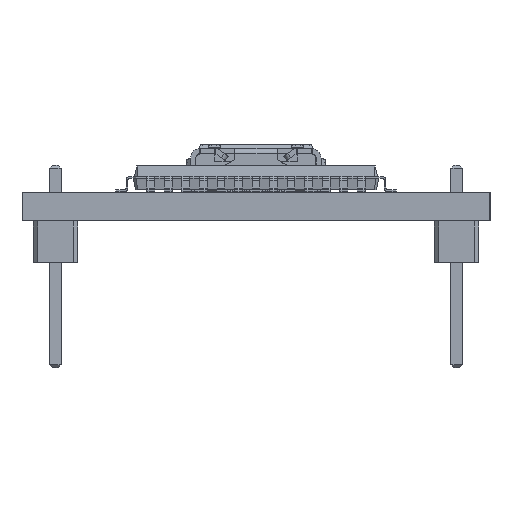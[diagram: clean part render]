
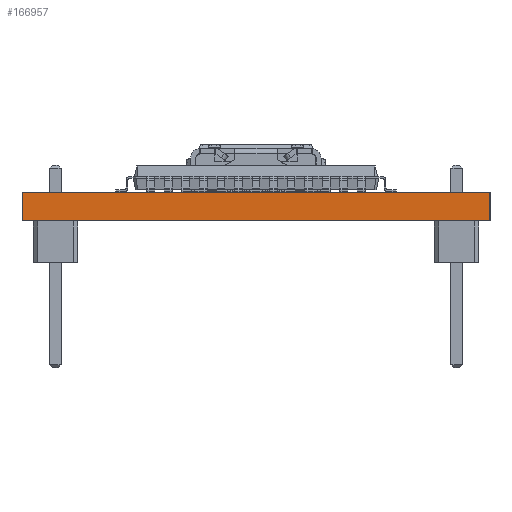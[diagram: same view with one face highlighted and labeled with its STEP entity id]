
A CAD part, left-side view. The second image highlights one B-rep face of the part: STEP entity #166957.
In plain terms, the highlighted planar face has unit normal (-1, 0, 0).
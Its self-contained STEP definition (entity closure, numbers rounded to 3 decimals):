
#166776 = PLANE('',#166777);
#166777 = AXIS2_PLACEMENT_3D('',#166778,#166779,#166780);
#166778 = CARTESIAN_POINT('',(24.765,-13.335,0.));
#166779 = DIRECTION('',(0.,-1.,0.));
#166780 = DIRECTION('',(-1.,0.,0.));
#166801 = VERTEX_POINT('',#166802);
#166802 = CARTESIAN_POINT('',(-24.765,-13.335,1.6));
#166816 = PLANE('',#166817);
#166817 = AXIS2_PLACEMENT_3D('',#166818,#166819,#166820);
#166818 = CARTESIAN_POINT('',(0.,0.,1.6));
#166819 = DIRECTION('',(-0.,-0.,-1.));
#166820 = DIRECTION('',(-1.,0.,0.));
#166828 = EDGE_CURVE('',#166829,#166801,#166831,.T.);
#166829 = VERTEX_POINT('',#166830);
#166830 = CARTESIAN_POINT('',(-24.765,-13.335,0.));
#166831 = SURFACE_CURVE('',#166832,(#166836,#166843),.PCURVE_S1.);
#166832 = LINE('',#166833,#166834);
#166833 = CARTESIAN_POINT('',(-24.765,-13.335,0.));
#166834 = VECTOR('',#166835,1.);
#166835 = DIRECTION('',(0.,0.,1.));
#166836 = PCURVE('',#166776,#166837);
#166837 = DEFINITIONAL_REPRESENTATION('',(#166838),#166842);
#166838 = LINE('',#166839,#166840);
#166839 = CARTESIAN_POINT('',(49.53,0.));
#166840 = VECTOR('',#166841,1.);
#166841 = DIRECTION('',(0.,-1.));
#166842 = ( GEOMETRIC_REPRESENTATION_CONTEXT(2) 
PARAMETRIC_REPRESENTATION_CONTEXT() REPRESENTATION_CONTEXT('2D SPACE',''
  ) );
#166843 = PCURVE('',#166844,#166849);
#166844 = PLANE('',#166845);
#166845 = AXIS2_PLACEMENT_3D('',#166846,#166847,#166848);
#166846 = CARTESIAN_POINT('',(-24.765,-13.335,0.));
#166847 = DIRECTION('',(-1.,0.,0.));
#166848 = DIRECTION('',(0.,1.,0.));
#166849 = DEFINITIONAL_REPRESENTATION('',(#166850),#166854);
#166850 = LINE('',#166851,#166852);
#166851 = CARTESIAN_POINT('',(0.,0.));
#166852 = VECTOR('',#166853,1.);
#166853 = DIRECTION('',(0.,-1.));
#166854 = ( GEOMETRIC_REPRESENTATION_CONTEXT(2) 
PARAMETRIC_REPRESENTATION_CONTEXT() REPRESENTATION_CONTEXT('2D SPACE',''
  ) );
#166870 = PLANE('',#166871);
#166871 = AXIS2_PLACEMENT_3D('',#166872,#166873,#166874);
#166872 = CARTESIAN_POINT('',(0.,0.,0.));
#166873 = DIRECTION('',(-0.,-0.,-1.));
#166874 = DIRECTION('',(-1.,0.,0.));
#166903 = PLANE('',#166904);
#166904 = AXIS2_PLACEMENT_3D('',#166905,#166906,#166907);
#166905 = CARTESIAN_POINT('',(-24.765,13.335,0.));
#166906 = DIRECTION('',(0.,1.,0.));
#166907 = DIRECTION('',(1.,0.,0.));
#166957 = ADVANCED_FACE('',(#166958),#166844,.T.);
#166958 = FACE_BOUND('',#166959,.T.);
#166959 = EDGE_LOOP('',(#166960,#166961,#166984,#167007));
#166960 = ORIENTED_EDGE('',*,*,#166828,.T.);
#166961 = ORIENTED_EDGE('',*,*,#166962,.T.);
#166962 = EDGE_CURVE('',#166801,#166963,#166965,.T.);
#166963 = VERTEX_POINT('',#166964);
#166964 = CARTESIAN_POINT('',(-24.765,13.335,1.6));
#166965 = SURFACE_CURVE('',#166966,(#166970,#166977),.PCURVE_S1.);
#166966 = LINE('',#166967,#166968);
#166967 = CARTESIAN_POINT('',(-24.765,-13.335,1.6));
#166968 = VECTOR('',#166969,1.);
#166969 = DIRECTION('',(0.,1.,0.));
#166970 = PCURVE('',#166844,#166971);
#166971 = DEFINITIONAL_REPRESENTATION('',(#166972),#166976);
#166972 = LINE('',#166973,#166974);
#166973 = CARTESIAN_POINT('',(0.,-1.6));
#166974 = VECTOR('',#166975,1.);
#166975 = DIRECTION('',(1.,0.));
#166976 = ( GEOMETRIC_REPRESENTATION_CONTEXT(2) 
PARAMETRIC_REPRESENTATION_CONTEXT() REPRESENTATION_CONTEXT('2D SPACE',''
  ) );
#166977 = PCURVE('',#166816,#166978);
#166978 = DEFINITIONAL_REPRESENTATION('',(#166979),#166983);
#166979 = LINE('',#166980,#166981);
#166980 = CARTESIAN_POINT('',(24.765,-13.335));
#166981 = VECTOR('',#166982,1.);
#166982 = DIRECTION('',(0.,1.));
#166983 = ( GEOMETRIC_REPRESENTATION_CONTEXT(2) 
PARAMETRIC_REPRESENTATION_CONTEXT() REPRESENTATION_CONTEXT('2D SPACE',''
  ) );
#166984 = ORIENTED_EDGE('',*,*,#166985,.F.);
#166985 = EDGE_CURVE('',#166986,#166963,#166988,.T.);
#166986 = VERTEX_POINT('',#166987);
#166987 = CARTESIAN_POINT('',(-24.765,13.335,0.));
#166988 = SURFACE_CURVE('',#166989,(#166993,#167000),.PCURVE_S1.);
#166989 = LINE('',#166990,#166991);
#166990 = CARTESIAN_POINT('',(-24.765,13.335,0.));
#166991 = VECTOR('',#166992,1.);
#166992 = DIRECTION('',(0.,0.,1.));
#166993 = PCURVE('',#166844,#166994);
#166994 = DEFINITIONAL_REPRESENTATION('',(#166995),#166999);
#166995 = LINE('',#166996,#166997);
#166996 = CARTESIAN_POINT('',(26.67,0.));
#166997 = VECTOR('',#166998,1.);
#166998 = DIRECTION('',(0.,-1.));
#166999 = ( GEOMETRIC_REPRESENTATION_CONTEXT(2) 
PARAMETRIC_REPRESENTATION_CONTEXT() REPRESENTATION_CONTEXT('2D SPACE',''
  ) );
#167000 = PCURVE('',#166903,#167001);
#167001 = DEFINITIONAL_REPRESENTATION('',(#167002),#167006);
#167002 = LINE('',#167003,#167004);
#167003 = CARTESIAN_POINT('',(0.,0.));
#167004 = VECTOR('',#167005,1.);
#167005 = DIRECTION('',(0.,-1.));
#167006 = ( GEOMETRIC_REPRESENTATION_CONTEXT(2) 
PARAMETRIC_REPRESENTATION_CONTEXT() REPRESENTATION_CONTEXT('2D SPACE',''
  ) );
#167007 = ORIENTED_EDGE('',*,*,#167008,.F.);
#167008 = EDGE_CURVE('',#166829,#166986,#167009,.T.);
#167009 = SURFACE_CURVE('',#167010,(#167014,#167021),.PCURVE_S1.);
#167010 = LINE('',#167011,#167012);
#167011 = CARTESIAN_POINT('',(-24.765,-13.335,0.));
#167012 = VECTOR('',#167013,1.);
#167013 = DIRECTION('',(0.,1.,0.));
#167014 = PCURVE('',#166844,#167015);
#167015 = DEFINITIONAL_REPRESENTATION('',(#167016),#167020);
#167016 = LINE('',#167017,#167018);
#167017 = CARTESIAN_POINT('',(0.,0.));
#167018 = VECTOR('',#167019,1.);
#167019 = DIRECTION('',(1.,0.));
#167020 = ( GEOMETRIC_REPRESENTATION_CONTEXT(2) 
PARAMETRIC_REPRESENTATION_CONTEXT() REPRESENTATION_CONTEXT('2D SPACE',''
  ) );
#167021 = PCURVE('',#166870,#167022);
#167022 = DEFINITIONAL_REPRESENTATION('',(#167023),#167027);
#167023 = LINE('',#167024,#167025);
#167024 = CARTESIAN_POINT('',(24.765,-13.335));
#167025 = VECTOR('',#167026,1.);
#167026 = DIRECTION('',(0.,1.));
#167027 = ( GEOMETRIC_REPRESENTATION_CONTEXT(2) 
PARAMETRIC_REPRESENTATION_CONTEXT() REPRESENTATION_CONTEXT('2D SPACE',''
  ) );
